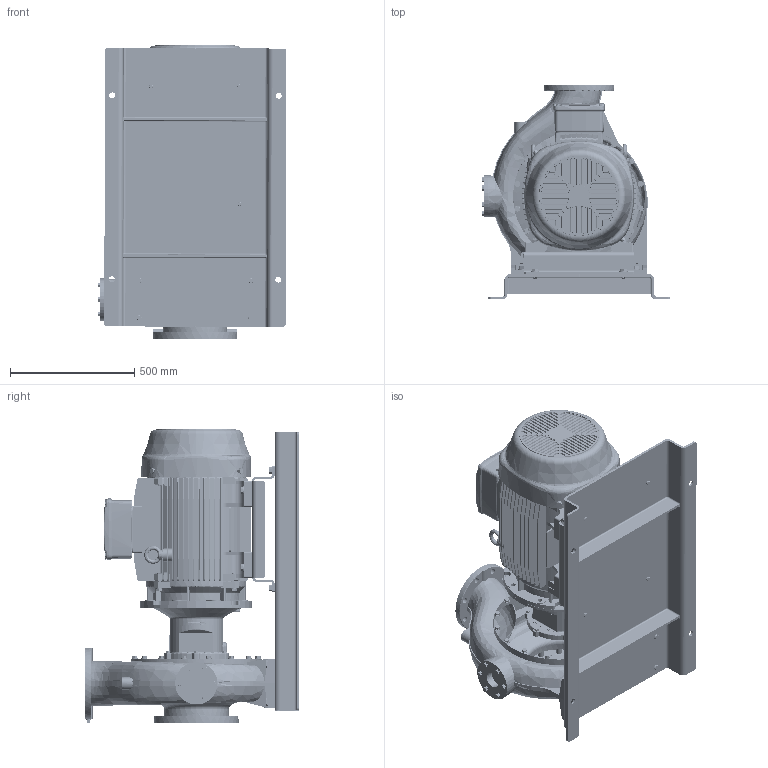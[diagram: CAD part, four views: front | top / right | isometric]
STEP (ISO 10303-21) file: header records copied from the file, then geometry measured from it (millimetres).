
FILE_DESCRIPTION (( 'STEP AP214' ), '1' );
FILE_NAME ('GSD4 150-400_37 & 45_(225SM)_W21_BP.STEP', '2026-05-08T00:04:45', ( '' ), ( '' ), 'SwSTEP 2.0', 'SolidWorks 2024', '' );
FILE_SCHEMA (( 'AUTOMOTIVE_DESIGN' ));
Length unit declared in the file: millimetre
Products named in the file (11): GSD4 150-400_37 & 45_(225SM)_W21_BP.STEP; Parametric bolt_SFT-A359B.STEP; Parametric bolt_SFT-A351B.STEP; Parametric Flat Washer_M20_1.STEP; N9S4 GSDA-94F F1-1832983-00.STEP; GSD4 150-400_37 & 45_(225SM)_W21_BP; Parametric bolt_SFT-A403B_1.STEP; 150-400-225S_M_ﾃﾞﾌｫﾙﾄ.STEP; 225S_M4P IE3_W21T_B35.STEP; Parametric Flat Washer_M16.STEP; CGS11-5283.STEP
Assembly tree (29 placements, depth 3):
  GSD4 150-400_37 & 45_(225SM)_W21_BP
    GSD4 150-400_37 & 45_(225SM)_W21_BP.STEP
      150-400-225S_M_ﾃﾞﾌｫﾙﾄ.STEP
      225S_M4P IE3_W21T_B35.STEP
      N9S4 GSDA-94F F1-1832983-00.STEP
      CGS11-5283.STEP
      Parametric bolt_SFT-A359B.STEP  x4
      Parametric Flat Washer_M16.STEP  x8
      Parametric bolt_SFT-A351B.STEP  x4
      Parametric bolt_SFT-A403B_1.STEP  x4
      Parametric Flat Washer_M20_1.STEP  x4
Bounding box: 758.65 x 865 x 1184.5 mm (x, y, z)
Volume: 182819868.3 mm3; surface area: 7919052.1 mm2
Topology: 36 solids, 41 shells, 4498 faces, 11833 edges, 7543 vertices
Faces by surface type: plane 1847, cylinder 1545, cone 548, bspline 285, torus 255, sphere 18
Entity records: 193857 total; most frequent: CARTESIAN_POINT 100806, ORIENTED_EDGE 20336, DIRECTION 18477, EDGE_CURVE 10168, AXIS2_PLACEMENT_3D 6770, VERTEX_POINT 6472, VECTOR 4937, LINE 4937
